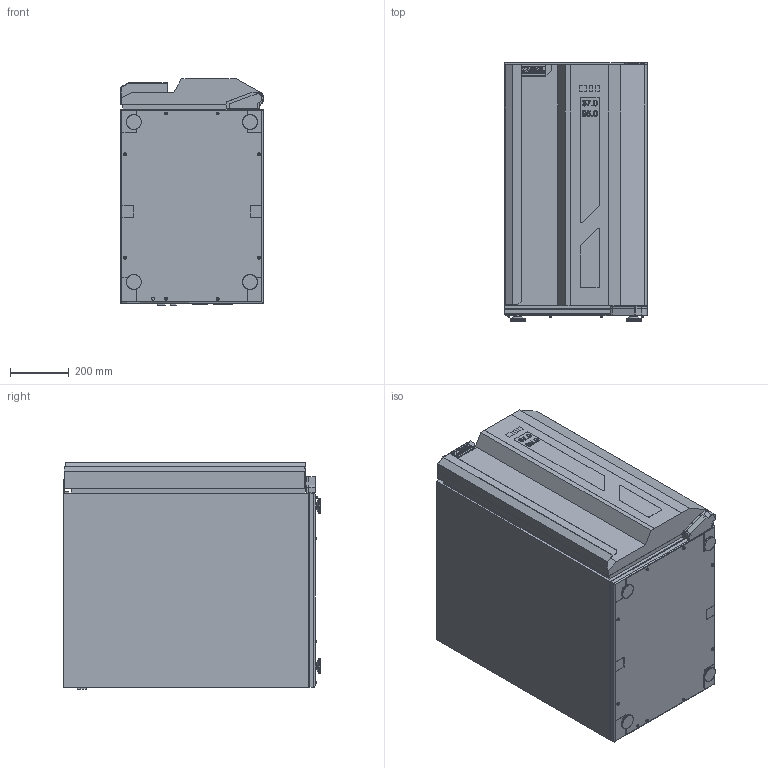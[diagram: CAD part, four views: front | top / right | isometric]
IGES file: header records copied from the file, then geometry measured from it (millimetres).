
Start section: SolidWorks IGES file using analytic representation for surfaces
Global section: file name: F:\Konstruktion\Massbilder f. CMa\STR44\STR44.IGS; native system: SolidWorks 2006 by SolidWorks Corporation; preprocessor: SolidWorks 2006 by SolidWorks Corporation; author: cma; date: 081212.143546; units: millimetre
Bounding box: 486 x 876.5 x 770.5 mm (x, y, z)
Surface area: 5182769.5 mm2 (no closed solid volume)
Topology: 0 solids, 0 shells, 1501 faces, 22356 edges, 26024 vertices
Faces by surface type: bspline 1041, revolution 460
